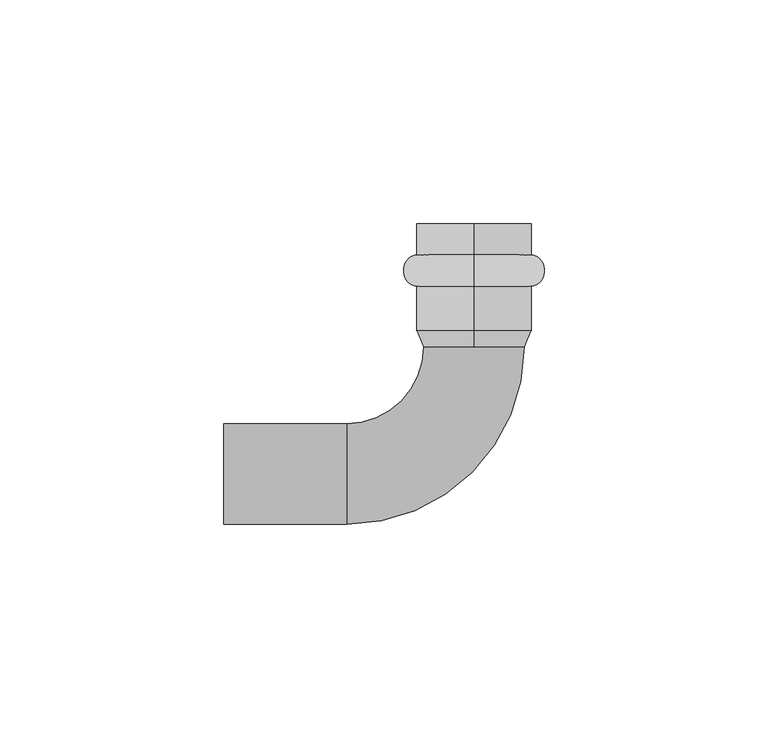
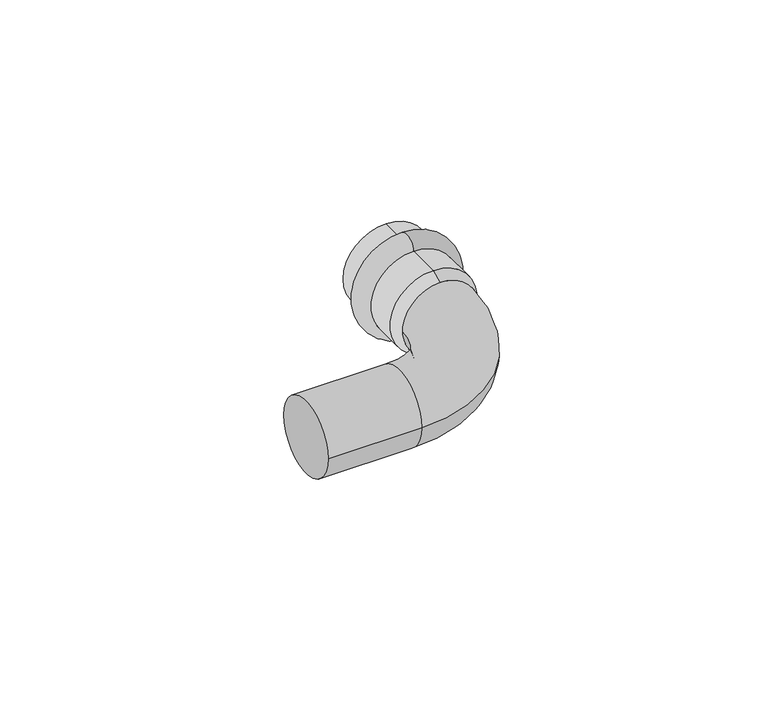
"""IFC4 building model written with IfcOpenShell, lengths in millimetres: pipe fitting geometry, РЕХАУ_Пресс Отвод-вставка : 22 x 90°."""

from ifc_helpers import new_model, si_unit, point, frame, origin, place, context, project, spatial, polyline, circle_curve, ellipse_curve, trimmed, source, transform, mapped, element, save
from ifc_brep_helpers import plane_surface, cylinder_surface, revolved_surface, advanced_brep


def pipe_fitting_0edc9f57(model_context):
    return source(origin(), model_context, "Body", "AdvancedBrep", [
        advanced_brep(
        [(56.0, 49.0, 12.75), (56.0, 49.0, -12.75), (56.0, 42.0, -12.75), (56.0, 42.0, 12.75)],
        [
            (0, 1, circle_curve(frame((56.0, 49.0, 0.0), z_axis=(0.0, 1.0, 0.0), x_axis=(0.0, 0.0, -1.0)), 12.75)),
            (1, 2),
            (2, 3, circle_curve(frame((56.0, 42.0, 0.0), z_axis=(0.0, -1.0, 0.0), x_axis=(0.0, 0.0, -1.0)), 12.75)),
            (3, 0),
            (1, 0, circle_curve(frame((56.0, 49.0, 0.0), z_axis=(0.0, 1.0, 0.0), x_axis=(0.0, 0.0, -1.0)), 12.75)),
            (3, 2, circle_curve(frame((56.0, 42.0, 0.0), z_axis=(0.0, -1.0, 0.0), x_axis=(0.0, 0.0, -1.0)), 12.75)),
            (2, 1, ellipse_curve(frame((56.0, 45.5, -12.75), z_axis=(1.0, 0.0, 0.0), x_axis=(0.0, 1.0, 0.0)), 3.5, 3.1)),
            (0, 3, ellipse_curve(frame((56.0, 45.5, 12.75), z_axis=(1.0, 0.0, 0.0), x_axis=(0.0, 1.0, 0.0)), 3.5, 3.1)),
        ],
        [
            revolved_surface(polyline([(56.0, 42.0, -12.75), (56.0, 49.0, -12.75)]), (56.0, 29.0, 0.0), (0.0, -1.0, 0.0)),
            revolved_surface(trimmed(ellipse_curve(frame((56.0, 45.5, -12.75), z_axis=(-1.0, 0.0, 0.0), x_axis=(0.0, 1.0, 0.0)), 3.5, 3.1), [point((56.0, 49.0, -12.75))], [point((56.0, 42.0, -12.75))], True, "CARTESIAN"), (56.0, 29.0, 0.0), (0.0, -1.0, 0.0)),
        ],
        [
            (0, [[1, 2, 3, 4]]),
            (0, [[5, -4, 6, -2]]),
            (1, [[-3, 7, -1, 8]]),
            (1, [[-6, -8, -5, -7]]),
        ],
    ),
        advanced_brep(
        [(56.0, 28.4662215, 11.25), (56.0, 28.4662215, -11.25), (56.0, 32.0, -12.75), (56.0, 32.0, 12.75), (56.0, 56.0, 11.25), (56.0, 56.0, -11.25), (56.0, 56.0, 12.75), (56.0, 56.0, -12.75)],
        [
            (0, 1, circle_curve(frame((56.0, 28.4662215, 0.0), z_axis=(0.0, 1.0, 0.0), x_axis=(0.0, 0.0, -1.0)), 11.25)),
            (1, 2),
            (2, 3, circle_curve(frame((56.0, 32.0, 0.0), z_axis=(0.0, -1.0, 0.0), x_axis=(0.0, 0.0, -1.0)), 12.75)),
            (3, 0),
            (1, 0, circle_curve(frame((56.0, 28.4662215, 0.0), z_axis=(0.0, 1.0, 0.0), x_axis=(0.0, 0.0, -1.0)), 11.25)),
            (3, 2, circle_curve(frame((56.0, 32.0, 0.0), z_axis=(0.0, -1.0, 0.0), x_axis=(0.0, 0.0, -1.0)), 12.75)),
            (4, 5, circle_curve(frame((56.0, 56.0, 0.0), z_axis=(0.0, 1.0, 0.0), x_axis=(0.0, 0.0, -1.0)), 11.25)),
            (5, 1),
            (0, 4),
            (5, 4, circle_curve(frame((56.0, 56.0, 0.0), z_axis=(0.0, 1.0, 0.0), x_axis=(0.0, 0.0, -1.0)), 11.25)),
            (6, 7, circle_curve(frame((56.0, 56.0, 0.0), z_axis=(0.0, 1.0, 0.0), x_axis=(0.0, 0.0, -1.0)), 12.75)),
            (7, 5),
            (4, 6),
            (7, 6, circle_curve(frame((56.0, 56.0, 0.0), z_axis=(0.0, 1.0, 0.0), x_axis=(0.0, 0.0, -1.0)), 12.75)),
            (2, 7),
            (6, 3),
        ],
        [
            revolved_surface(polyline([(56.0, 32.0, -12.75), (56.0, 28.4662215, -11.25)]), (56.0, 29.0, 0.0), (0.0, -1.0, 0.0)),
            revolved_surface(polyline([(56.0, 28.4662215, -11.25), (56.0, 56.0, -11.25)]), (56.0, 29.0, 0.0), (0.0, -1.0, 0.0)),
            plane_surface(frame((56.0, 56.0, 0.0), z_axis=(0.0, 1.0, 0.0), x_axis=(0.0, 0.0, -1.0))),
            cylinder_surface(frame((56.0, 29.0, 0.0), z_axis=(0.0, -1.0, 0.0), x_axis=(0.0, 0.0, -1.0)), 12.75),
        ],
        [
            (0, [[1, 2, 3, 4]]),
            (0, [[5, -4, 6, -2]]),
            (1, [[7, 8, -1, 9]]),
            (1, [[10, -9, -5, -8]]),
            (2, [[11, 12, -7, 13]]),
            (2, [[14, -13, -10, -12]]),
            (3, [[-3, 15, -11, 16]]),
            (3, [[-6, -16, -14, -15]]),
        ],
    ),
        advanced_brep(
        [(0.0, -11.25, 0.0), (0.0, 11.25, 0.0), (27.5337785, -11.25, 0.0), (27.5337785, 11.25, 0.0), (44.75, 28.4662215, 0.0), (67.25, 28.4662215, 0.0), (67.25, 32.0, 0.0), (44.75, 32.0, 0.0)],
        [
            (0, 1, circle_curve(frame((0.0, 0.0, 0.0), z_axis=(-1.0, 0.0, 0.0), x_axis=(0.0, 1.0, 0.0)), 11.25)),
            (1, 0, circle_curve(frame((0.0, 0.0, 0.0), z_axis=(-1.0, 0.0, 0.0), x_axis=(0.0, 1.0, 0.0)), 11.25)),
            (0, 2),
            (2, 3, circle_curve(frame((27.5337785, 0.0, 0.0), z_axis=(-1.0, 0.0, 0.0), x_axis=(0.0, 1.0, 0.0)), 11.25)),
            (3, 1),
            (3, 2, circle_curve(frame((27.5337785, 0.0, 0.0), z_axis=(-1.0, 0.0, 0.0), x_axis=(0.0, 1.0, 0.0)), 11.25)),
            (4, 3, circle_curve(frame((27.5337785, 28.4662215, 0.0), z_axis=(0.0, 0.0, -1.0), x_axis=(0.0, -1.0, 0.0)), 17.2162215)),
            (2, 5, circle_curve(frame((27.5337785, 28.4662215, 0.0), z_axis=(0.0, 0.0, 1.0), x_axis=(0.0, -1.0, 0.0)), 39.7162215)),
            (5, 4, circle_curve(frame((56.0, 28.4662215, 0.0), z_axis=(0.0, -1.0, 0.0), x_axis=(-1.0, 0.0, 0.0)), 11.25)),
            (4, 5, circle_curve(frame((56.0, 28.4662215, 0.0), z_axis=(0.0, -1.0, 0.0), x_axis=(-1.0, 0.0, 0.0)), 11.25)),
            (6, 7, circle_curve(frame((56.0, 32.0, 0.0), z_axis=(0.0, 1.0, 0.0), x_axis=(-1.0, 0.0, 0.0)), 11.25)),
            (7, 6, circle_curve(frame((56.0, 32.0, 0.0), z_axis=(0.0, 1.0, 0.0), x_axis=(-1.0, 0.0, 0.0)), 11.25)),
            (5, 6),
            (7, 4),
        ],
        [
            plane_surface(frame((0.0, 0.0, 0.0), z_axis=(-1.0, 0.0, 0.0), x_axis=(0.0, 0.0, 1.0))),
            cylinder_surface(frame((0.0, 0.0, 0.0), z_axis=(-1.0, 0.0, 0.0), x_axis=(0.0, 1.0, 0.0)), 11.25),
            revolved_surface(trimmed(ellipse_curve(frame((27.5337785, 0.0, 0.0), z_axis=(-1.0, 0.0, 0.0), x_axis=(0.0, 1.0, 0.0)), 11.25, 11.25), [point((27.5337785, -11.25, 0.0))], [point((27.5337785, 11.25, 0.0))], True, "CARTESIAN"), (27.5337785, 28.4662215, 0.0), (0.0, 0.0, 1.0)),
            revolved_surface(trimmed(ellipse_curve(frame((27.5337785, 0.0, 0.0), z_axis=(-1.0, 0.0, 0.0), x_axis=(0.0, 1.0, 0.0)), 11.25, 11.25), [point((27.5337785, 11.25, 0.0))], [point((27.5337785, -11.25, 0.0))], True, "CARTESIAN"), (27.5337785, 28.4662215, 0.0), (0.0, 0.0, 1.0)),
            plane_surface(frame((56.0, 32.0, 0.0), z_axis=(0.0, 1.0, 0.0), x_axis=(0.0, 0.0, 1.0))),
            cylinder_surface(frame((56.0, 28.4662215, 0.0), z_axis=(0.0, -1.0, 0.0), x_axis=(-1.0, 0.0, 0.0)), 11.25),
        ],
        [
            (0, [[1, 2]]),
            (1, [[-1, 3, 4, 5]]),
            (1, [[-2, -5, 6, -3]]),
            (2, [[7, -4, 8, 9]]),
            (3, [[-8, -6, -7, 10]]),
            (4, [[11, 12]]),
            (5, [[-9, 13, -12, 14]]),
            (5, [[-10, -14, -11, -13]]),
        ],
    ),
    ])


if __name__ == "__main__":
    model = new_model("IFC4")
    model_context = context("Model", 3, world=origin())
    ifc_project = project(units=[si_unit("LENGTHUNIT", "METRE", prefix="MILLI")], contexts=[model_context])
    site = spatial("IfcSite", under=ifc_project)
    building = spatial("IfcBuilding", under=site)
    placement = place(None, origin())
    pipe_fitting_shape = pipe_fitting_0edc9f57(model_context)
    element("IfcPipeFitting", 1, ObjectType="РЕХАУ_Пресс Отвод-вставка : 22 x 90°", at=placement, inside=building, context=model_context, shape_type="MappedRepresentation", body=[
        mapped(pipe_fitting_shape, transform((0.0, 0.0, 0.0), x_axis=(1.0, 0.0, 0.0), y_axis=(0.0, 1.0, 0.0), z_axis=(0.0, 0.0, 1.0))),
    ])
    save(model, "model.ifc")
